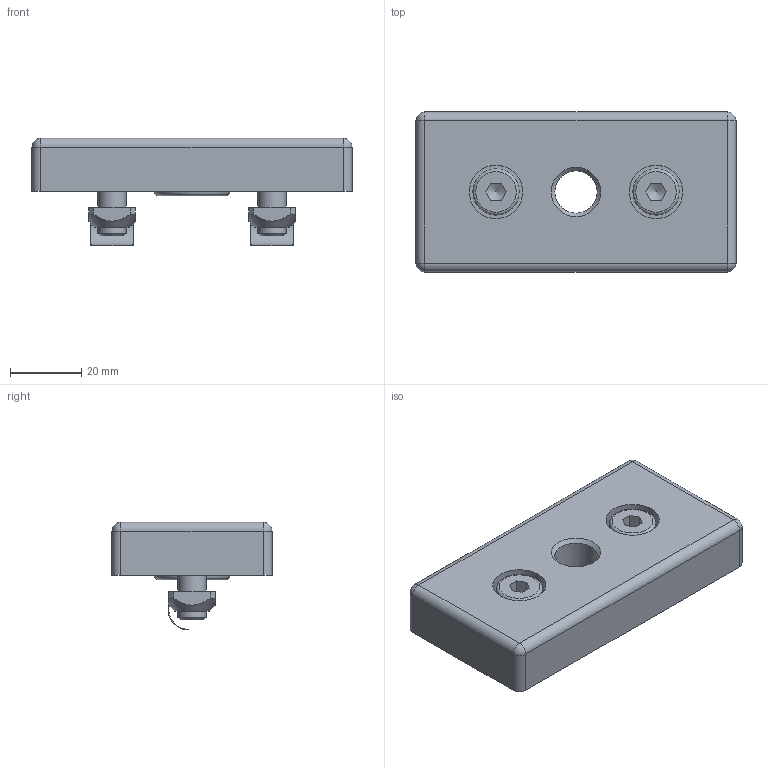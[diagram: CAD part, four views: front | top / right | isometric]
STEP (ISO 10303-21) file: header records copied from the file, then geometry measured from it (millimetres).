
FILE_DESCRIPTION((''),'2;1');
FILE_NAME('C:\Documents and Settings\Administrator\My Documents\Andys Backup Data\ANDY''S INVENTOR\INVENTOR LIBRARIES\MINITEC INVENTOR LIBRARIES\PNEUMATIC CONNECTIONS\A PACKED FILES\STEP FILES\24.1107_2 PNEUMATIC CONNECTION PLATE 45 G 1-4.stp','2010-07-06T11:13:01',('Administrator'),(''),'Autodesk Inventor 2009','Autodesk Inventor 2009','');
FILE_SCHEMA(('CONFIG_CONTROL_DESIGN'));
Length unit declared in the file: millimetre
Products named in the file (5): 24.1107_2 PNEUMATIC CONNECTION PLATE 45 G 1-4; 24.1107_2  PNEUMATIC CONNECTION PLATE 45 G1-4; 24.1107 O-RING; 21.1280 M8X22; 21.1351_2 M8 SQUARE NUT POS FXG
Assembly tree (6 placements, depth 2):
  24.1107_2 PNEUMATIC CONNECTION PLATE 45 G 1-4
    24.1107_2  PNEUMATIC CONNECTION PLATE 45 G1-4
    24.1107 O-RING
    21.1280 M8X22  x2
    21.1351_2 M8 SQUARE NUT POS FXG  x2
Bounding box: 90 x 45 x 30.3 mm (x, y, z)
Volume: 60014.8 mm3; surface area: 17241.9 mm2
Topology: 6 solids, 6 shells, 97 faces, 230 edges, 144 vertices
Faces by surface type: plane 53, cylinder 25, cone 7, torus 4, sphere 4, bspline 4
Full cylindrical faces by diameter (mm): 8 x4, 9 x2, 11.906 x1, 13 x2
Entity records: 1898 total; most frequent: CARTESIAN_POINT 415, DIRECTION 292, ORIENTED_EDGE 252, EDGE_CURVE 126, AXIS2_PLACEMENT_3D 114, EDGE_LOOP 89, VERTEX_POINT 87, VECTOR 64
